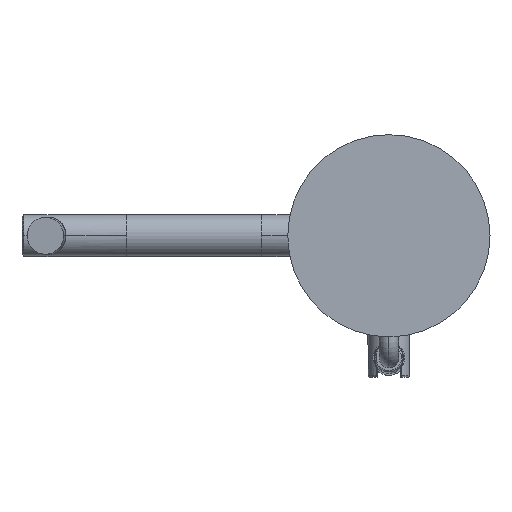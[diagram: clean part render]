
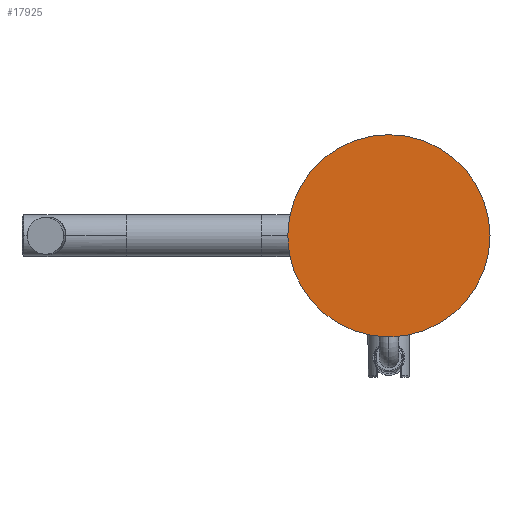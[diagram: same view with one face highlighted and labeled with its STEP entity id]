
A CAD part, front view. The second image highlights one B-rep face of the part: STEP entity #17925.
In plain terms, the highlighted planar face has unit normal (0, -1, 0).
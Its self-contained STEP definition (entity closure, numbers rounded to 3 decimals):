
#2701=CARTESIAN_POINT('',(0.,-887.,0.));
#2702=DIRECTION('',(0.,1.,0.));
#2703=DIRECTION('',(1.,0.,0.));
#2704=AXIS2_PLACEMENT_3D('',#2701,#2702,#2703);
#2706=CARTESIAN_POINT('',(0.,-887.,0.));
#2707=DIRECTION('',(0.,1.,0.));
#2708=DIRECTION('',(-1.,0.,0.));
#2709=AXIS2_PLACEMENT_3D('',#2706,#2707,#2708);
#15629=CARTESIAN_POINT('',(72.5,-887.,0.));
#15630=CARTESIAN_POINT('',(-72.5,-887.,0.));
#15631=VERTEX_POINT('',#15629);
#15632=VERTEX_POINT('',#15630);
#17915=CARTESIAN_POINT('',(78.656,-887.,-87.15));
#17916=DIRECTION('',(0.,1.,0.));
#17917=DIRECTION('',(-1.,0.,0.));
#17918=AXIS2_PLACEMENT_3D('',#17915,#17916,#17917);
#17919=PLANE('',#17918);
#17921=ORIENTED_EDGE('',*,*,#17920,.T.);
#17922=ORIENTED_EDGE('',*,*,#17905,.T.);
#17923=EDGE_LOOP('',(#17921,#17922));
#17924=FACE_OUTER_BOUND('',#17923,.F.);
#17925=ADVANCED_FACE('',(#17924),#17919,.F.);
#2705=CIRCLE('',#2704,72.5);
#2710=CIRCLE('',#2709,72.5);
#17905=EDGE_CURVE('',#15632,#15631,#2710,.T.);
#17920=EDGE_CURVE('',#15631,#15632,#2705,.T.);
